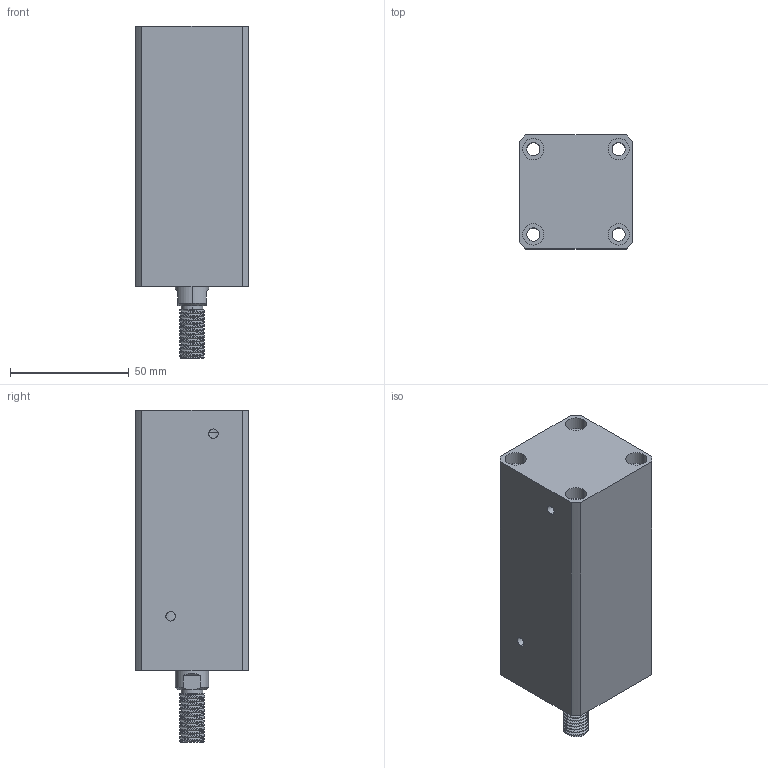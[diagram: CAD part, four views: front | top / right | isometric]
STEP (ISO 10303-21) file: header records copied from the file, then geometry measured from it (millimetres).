
FILE_DESCRIPTION (( 'STEP AP214' ), '1' );
FILE_NAME ('chtb-sdma25x65w_asm.STEP', '2018-05-22T07:38:43', ( 'Windows' ), ( 'Microsoft' ), 'SwSTEP 2.0', 'SolidWorks 2015', '' );
FILE_SCHEMA (( 'AUTOMOTIVE_DESIGN' ));
Length unit declared in the file: millimetre
Products named in the file (4): chtb-sdma25x65w_asm; CHTB-SDMA25X65WHSG; CHTB-SDMA25X65NBT; CHTB-25QG
Assembly tree (3 placements, depth 2):
  chtb-sdma25x65w_asm
    CHTB-25QG
    CHTB-SDMA25X65NBT
    CHTB-SDMA25X65WHSG
Bounding box: 48 x 48 x 140 mm (x, y, z)
Volume: 218309.5 mm3; surface area: 55522.9 mm2
Topology: 3 solids, 3 shells, 177 faces, 479 edges, 325 vertices
Faces by surface type: cylinder 117, plane 38, bspline 12, cone 10
Entity records: 10676 total; most frequent: CARTESIAN_POINT 6329, ORIENTED_EDGE 950, DIRECTION 772, EDGE_CURVE 475, VERTEX_POINT 325, AXIS2_PLACEMENT_3D 312, EDGE_LOOP 216, ADVANCED_FACE 177
